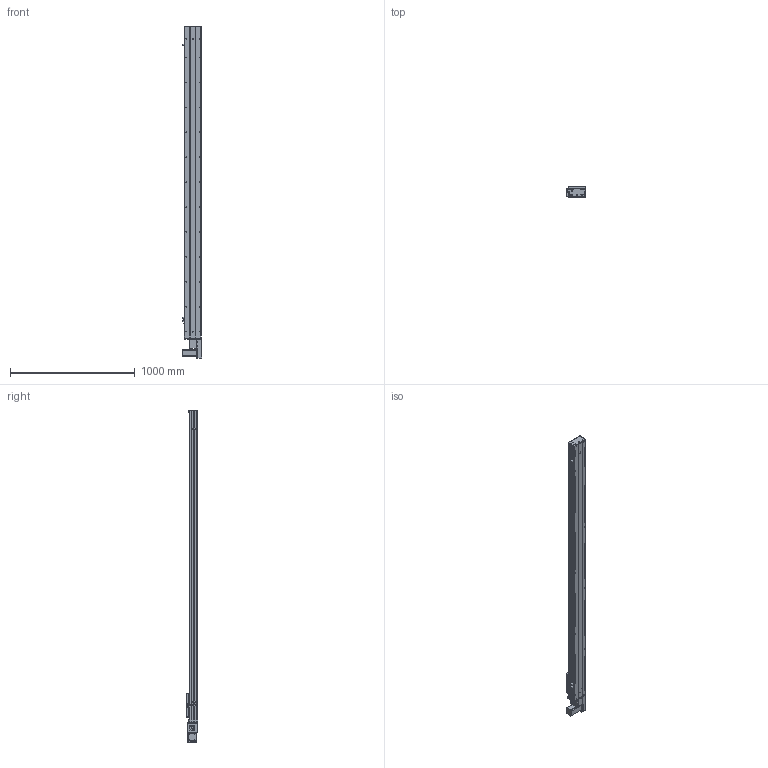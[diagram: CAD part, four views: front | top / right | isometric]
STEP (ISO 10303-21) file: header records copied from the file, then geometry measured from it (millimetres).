
FILE_DESCRIPTION (( 'STEP AP203' ), '1' );
FILE_NAME ('Y135CB-D90-S2200-BL-P400W.STEP', '2020-02-18T01:34:21', ( '微软用户' ), ( '微软中国' ), 'SwSTEP 2.0', 'SolidWorks 2017', '' );
FILE_SCHEMA (( 'CONFIG_CONTROL_DESIGN' ));
Length unit declared in the file: millimetre
Products named in the file (18): 5CB --掛极耜裔啣-; Y135CB-耜裔; C-詩湍揤踡え-陔; 135CB---遴掛极.-; 135CB--詩湍-CE; 35CB---喘謫眊楊擘啣; Y100-135俋离換覜ん--; Y俋欶BR----; Y10B--々湍喘謫眊--666; Y135C-陔俋离換覜結え-; 0B-埴倛裔啣; Y10B-耜蚾蟀諉啣----; 5C--俋欶; 0B-源倛裔啣; C-雄赽釱--; 0B-萇儂楊擘啣; Y135CB-D90-S2200-BL-P400W; san松下电机400不带刹车----
Assembly tree (21 placements, depth 2):
  Y135CB-D90-S2200-BL-P400W
    Y135CB-耜裔
    135CB---遴掛极.-
    35CB---喘謫眊楊擘啣
    Y10B--々湍喘謫眊--666
    Y10B-耜蚾蟀諉啣----
    Y俋欶BR----
    0B-埴倛裔啣
    0B-源倛裔啣
    0B-萇儂楊擘啣
    san松下电机400不带刹车----
    5CB --掛极耜裔啣-  x2
    C-詩湍揤踡え-陔  x2
    135CB--詩湍-CE
    Y100-135俋离換覜ん--  x3
    Y135C-陔俋离換覜結え-
    5C--俋欶
    C-雄赽釱--
Bounding box: 157.5 x 91 x 2664.5 mm (x, y, z)
Volume: 7503595.8 mm3; surface area: 2968352.2 mm2
Topology: 21 solids, 21 shells, 969 faces, 2635 edges, 1746 vertices
Faces by surface type: cylinder 495, plane 458, cone 16
Entity records: 30553 total; most frequent: CARTESIAN_POINT 5076, DIRECTION 5075, ORIENTED_EDGE 4746, EDGE_CURVE 2373, AXIS2_PLACEMENT_3D 1857, VERTEX_POINT 1574, LINE 1361, VECTOR 1361
